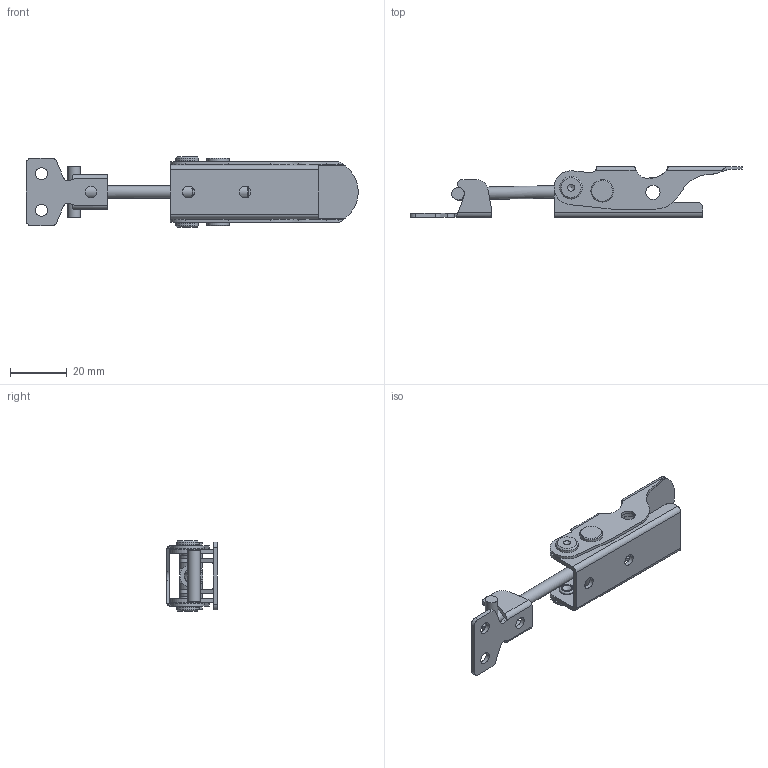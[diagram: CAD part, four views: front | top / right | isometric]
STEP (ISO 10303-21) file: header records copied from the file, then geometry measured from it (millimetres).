
FILE_DESCRIPTION(/* description */ ('STEP AP214'),/* implementation_level */ '2;1');
FILE_NAME(/* name */ 'Toggle Latch_ Stainless Steel GN 761-100-T-NI (closed-0)',/* time_stamp */ '2023-09-25T13:22:41+02:00',/* author */ ('License CC BY-ND 4.0'),/* organization */ ('CADENAS'),/* preprocessor_version */ 'ST-DEVELOPER v19.3',/* originating_system */ 'PARTsolutions',/* authorisation */ ' ');
FILE_SCHEMA (('AUTOMOTIVE_DESIGN {1 0 10303 214 3 1 1}'));
Length unit declared in the file: millimetre
Products named in the file (6): Toggle Latch, Stainless Steel GN 761-100-T-NI (closed-0); Toggle Latch GN 761-100-T-NI-3; Toggle Latch GN 761-100-T-NI (0-0)-5; Toggle Latch GN 761-100-T-NI (0)-6; Toggle Latch GN 761-100-T-NI (0)-2; Toggle Latch GN 761-100-T-NI-1
Assembly tree (5 placements, depth 2):
  Toggle Latch, Stainless Steel GN 761-100-T-NI (closed-0)
    Toggle Latch GN 761-100-T-NI-3
    Toggle Latch GN 761-100-T-NI (0-0)-5
    Toggle Latch GN 761-100-T-NI (0)-6
    Toggle Latch GN 761-100-T-NI (0)-2
    Toggle Latch GN 761-100-T-NI-1
Bounding box: 117.46 x 18 x 25 mm (x, y, z)
Volume: 8029.3 mm3; surface area: 11806.5 mm2
Topology: 5 solids, 5 shells, 233 faces, 626 edges, 413 vertices
Faces by surface type: plane 104, cylinder 100, cone 25, torus 4
Full cylindrical faces by diameter (mm): 1 x2, 4.134 x2, 4.2 x7, 4.25 x2, 4.4 x2, 5 x3, 5.5 x4, 8 x5
Entity records: 7259 total; most frequent: CARTESIAN_POINT 1383, DIRECTION 1217, ORIENTED_EDGE 1120, EDGE_CURVE 560, AXIS2_PLACEMENT_3D 464, VERTEX_POINT 397, FACE_BOUND 325, EDGE_LOOP 321
